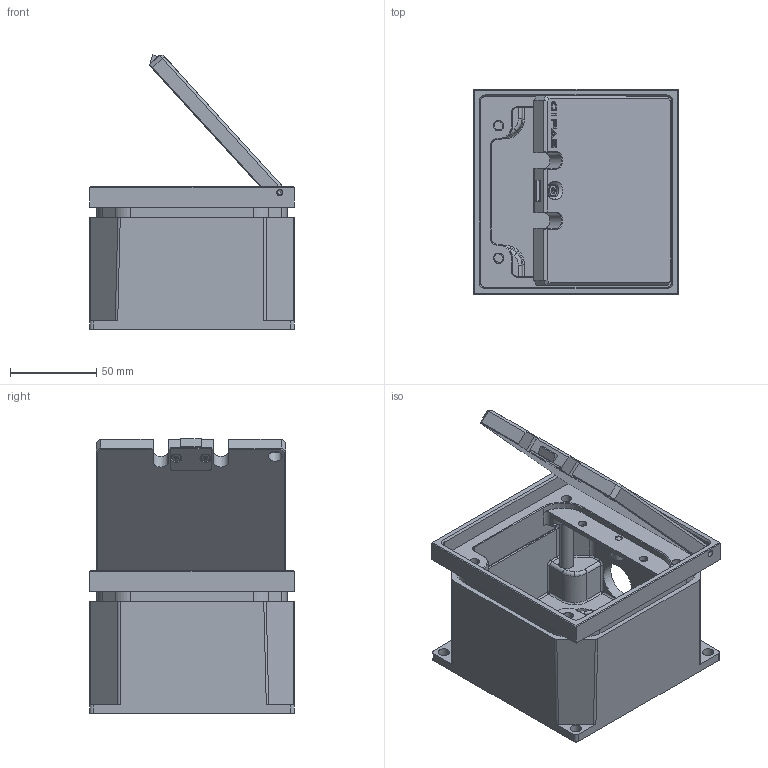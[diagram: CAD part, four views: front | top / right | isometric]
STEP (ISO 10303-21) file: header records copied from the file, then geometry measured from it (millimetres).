
FILE_DESCRIPTION(/* description */ (''),/* implementation_level */ '2;1');
FILE_NAME(/* name */ 'FONTO 4295 OPEN.stp',/* time_stamp */ '2023-10-25T14:09:44+02:00',/* author */ ('stangass'),/* organization */ (''),/* preprocessor_version */ 'ST-DEVELOPER v19.2',/* originating_system */ 'Autodesk Inventor 2023',/* authorisation */ '');
FILE_SCHEMA (('AUTOMOTIVE_DESIGN { 1 0 10303 214 3 1 1 }'));
Products named in the file (16): 1838026_3DINV; 1837450_3DINV; 1837594_3DINV; BS 4183 - M3 x 5; Cylinder head screw DIN 912 M4x5 07000.040.005(High); 1837598_3DINV; 1837467_3DINV; 2141409_3DINV; DIN 6799 - 8; 1837455_3DINV; DIN 7984 - M8 x 50; #32297; DIN 125-1 - B 5,3; DIN 127 - A 5; DIN 912 - M5 x 8; Erdungsdraht
Assembly tree (26 placements, depth 2):
  1838026_3DINV
    1837450_3DINV
    1837594_3DINV
    BS 4183 - M3 x 5  x2
    Cylinder head screw DIN 912 M4x5 07000.040.005(High)
    1837598_3DINV
    1837467_3DINV
    2141409_3DINV
    DIN 6799 - 8  x4
    1837455_3DINV
    DIN 7984 - M8 x 50  x4
    #32297  x2
    DIN 125-1 - B 5,3  x2
    DIN 127 - A 5  x2
    DIN 912 - M5 x 8  x2
    Erdungsdraht
Bounding box: 119 x 119 x 159.67 mm (x, y, z)
Volume: 425405 mm3; surface area: 169402.9 mm2
Topology: 26 solids, 26 shells, 1082 faces, 2765 edges, 1750 vertices
Faces by surface type: plane 497, cylinder 345, cone 94, bspline 91, torus 41, sphere 14
Full cylindrical faces by diameter (mm): 2 x1, 2.387 x2, 2.459 x2, 2.8 x8, 3 x4, 3.242 x1, 3.683 x2, 3.7 x2, 4 x1, 4.134 x2, 4.394 x2, 4.521 x2, 5 x4, 5.207 x2, 5.25 x2, 5.3 x2, 6 x4, 6.647 x8, 7 x1, 7.9 x1, 8 x4, 8.5 x2, 10 x2, 13 x4, 13.1 x4, 22.835 x2
Entity records: 32312 total; most frequent: CARTESIAN_POINT 10445, DIRECTION 4470, ORIENTED_EDGE 4414, EDGE_CURVE 2207, AXIS2_PLACEMENT_3D 1611, VERTEX_POINT 1400, LINE 1248, VECTOR 1248
